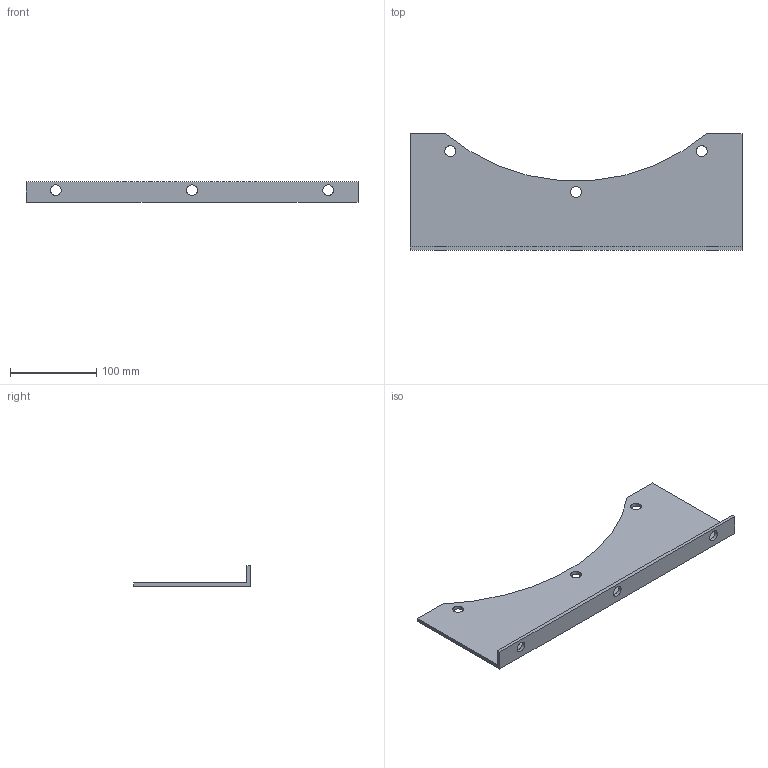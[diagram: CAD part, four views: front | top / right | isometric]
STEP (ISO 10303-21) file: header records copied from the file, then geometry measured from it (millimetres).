
FILE_DESCRIPTION(('STEP AP214'),'1');
FILE_NAME('accessory_5138880900.stp','2017-10-09T07:39:18',('TraceParts'),('TraceParts S.A.'),'Spatial InterOp 3D',' ',' ');
FILE_SCHEMA(('automotive_design'));
Length unit declared in the file: millimetre
Products named in the file (1): accessory_5138880900
Bounding box: 384 x 135 x 24 mm (x, y, z)
Volume: 189664.8 mm3; surface area: 100191 mm2
Topology: 1 solids, 1 shells, 22 faces, 60 edges, 40 vertices
Faces by surface type: cylinder 13, plane 9
Entity records: 926 total; most frequent: DIRECTION 132, CARTESIAN_POINT 123, ORIENTED_EDGE 120, EDGE_CURVE 60, AXIS2_PLACEMENT_3D 49, VERTEX_POINT 40, EDGE_LOOP 34, LINE 34
